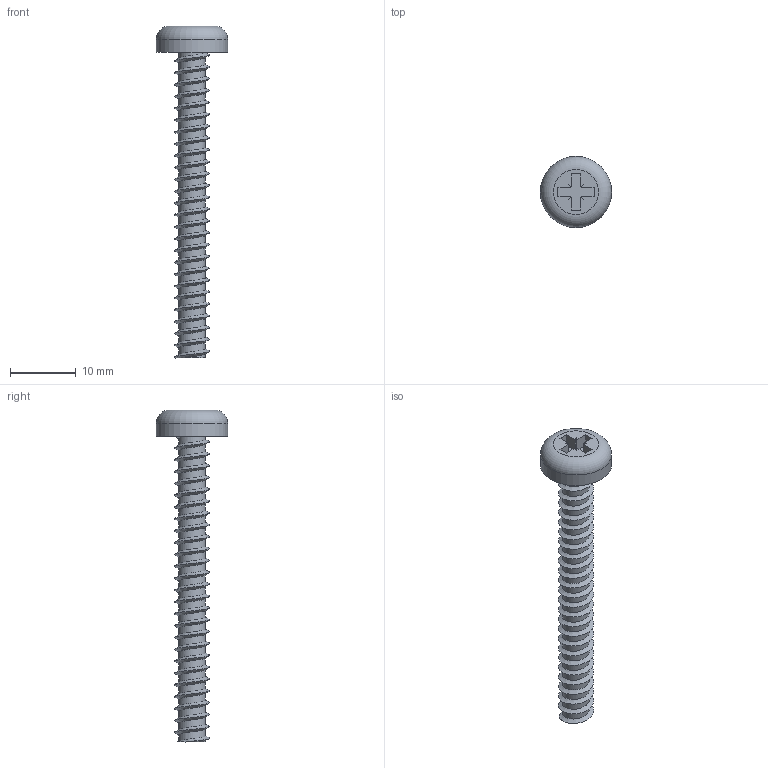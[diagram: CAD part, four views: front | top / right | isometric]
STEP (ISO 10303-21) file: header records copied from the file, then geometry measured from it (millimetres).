
FILE_DESCRIPTION(/* description */ (''),/* implementation_level */ '2;1');
FILE_NAME(/* name */ 'Pan Head Self Tapping Screw - No.12 (5.5mm) - 50mm.step',/* time_stamp */ '2025-09-01T16:29:15+03:00',/* author */ (''),/* organization */ (''),/* preprocessor_version */ 'ST-DEVELOPER v20.1',/* originating_system */ 'Autodesk Translation Framework v14.10.0.0',/* authorisation */ '');
FILE_SCHEMA (('AUTOMOTIVE_DESIGN { 1 0 10303 214 3 1 1 }'));
Length unit declared in the file: millimetre
Products named in the file (1): SPPT BASE
Bounding box: 10.8 x 10.8 x 50.42 mm (x, y, z)
Volume: 1014.7 mm3; surface area: 1265.4 mm2
Topology: 1 solids, 1 shells, 68 faces, 226 edges, 161 vertices
Faces by surface type: plane 36, cylinder 28, bspline 2, torus 1, cone 1
Full cylindrical faces by diameter (mm): 4.08 x25, 10.8 x1
Entity records: 19463 total; most frequent: CARTESIAN_POINT 17603, ORIENTED_EDGE 450, DIRECTION 278, EDGE_CURVE 225, VERTEX_POINT 161, LINE 124, VECTOR 124, B_SPLINE_CURVE_WITH_KNOTS 91
